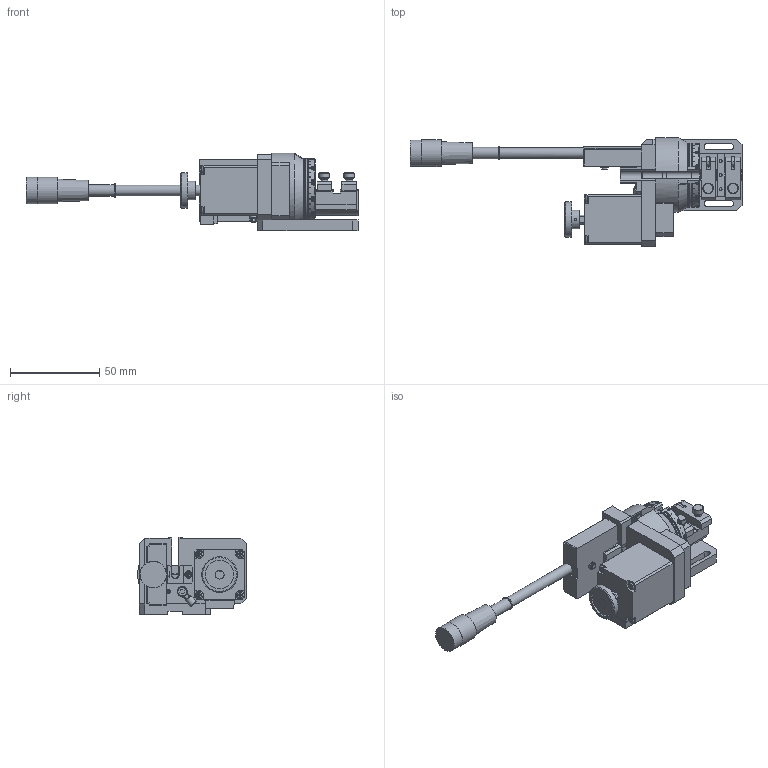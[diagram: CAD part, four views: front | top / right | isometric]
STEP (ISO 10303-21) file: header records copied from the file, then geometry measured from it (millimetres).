
FILE_DESCRIPTION(/* description */ (''),/* implementation_level */ '2;1');
FILE_NAME(/* name */ '\\fs301\share\Public_Div\生産本部_光学機器部\1_MEKA\1_motorized_stages\01_国内製品\50_FHRA\FHRA\FHRA-125_250L\Webダウンロード用データ\FHRA-125_250L_STP.stp',/* time_stamp */ '2023-03-23T10:12:05+09:00',/* author */ ('ta.murata'),/* organization */ (''),/* preprocessor_version */ 'ST-DEVELOPER v18.1',/* originating_system */ 'Autodesk Inventor 2021',/* authorisation */ '');
FILE_SCHEMA (('AUTOMOTIVE_DESIGN { 1 0 10303 214 3 1 1 }'));
Products named in the file (3): FHRA122L-M02-23001-TS01; FHRA122L-M02-23001-S01; FHRA122L-M02-23001-S02
Assembly tree (2 placements, depth 2):
  FHRA122L-M02-23001-TS01
    FHRA122L-M02-23001-S01
    FHRA122L-M02-23001-S02
Bounding box: 186.5 x 61 x 43.4 mm (x, y, z)
Volume: 107479 mm3; surface area: 46217.5 mm2
Topology: 3 solids, 72 shells, 3594 faces, 9496 edges, 6173 vertices
Faces by surface type: plane 1508, cylinder 1430, bspline 362, cone 288, torus 4, sphere 2
Full cylindrical faces by diameter (mm): 1.5 x5, 1.567 x1, 1.6 x15, 2 x25, 2.013 x4, 2.1 x9, 2.113 x4, 2.2 x7, 2.3 x1, 2.459 x2, 2.5 x21, 2.6 x2, 3 x18, 3.2 x1, 3.5 x6, 3.8 x13, 4 x7, 4.2 x4, 4.3 x1, 4.5 x10, 5 x3, 5.5 x11, 6 x15, 6.5 x1, 7 x3, 7.5 x1, 10 x1, 10.5 x1, 14.5 x2, 14.8 x1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
Entity records: 124957 total; most frequent: CARTESIAN_POINT 34407, ORIENTED_EDGE 18976, DIRECTION 17624, EDGE_CURVE 9488, AXIS2_PLACEMENT_3D 6309, VERTEX_POINT 6179, LINE 5006, VECTOR 5006
